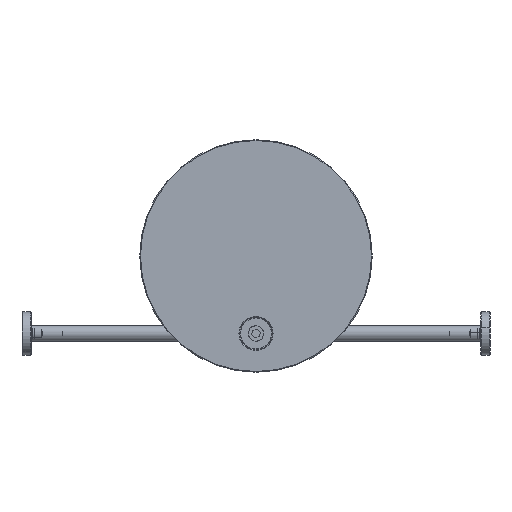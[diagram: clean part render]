
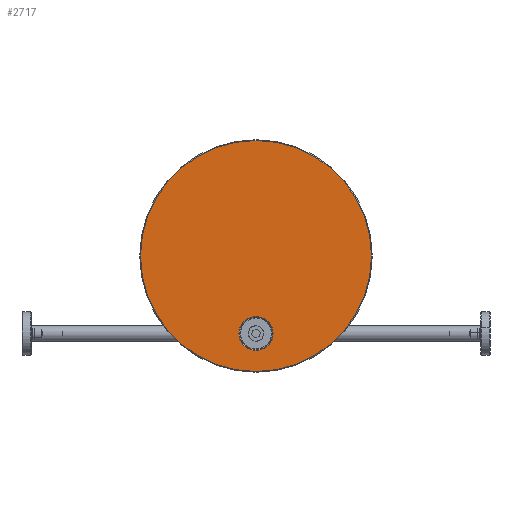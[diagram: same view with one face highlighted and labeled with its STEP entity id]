
A CAD part, front view. The second image highlights one B-rep face of the part: STEP entity #2717.
In plain terms, the highlighted planar face has unit normal (0, -1, 0).
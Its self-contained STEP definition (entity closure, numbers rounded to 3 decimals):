
#849 = ORIENTED_EDGE ( 'NONE', *, *, #5620, .T. ) ;
#1257 = EDGE_LOOP ( 'NONE', ( #849, #1857 ) ) ;
#1277 = PLANE ( 'NONE',  #3992 ) ;
#1334 = FACE_OUTER_BOUND ( 'NONE', #1257, .T. ) ;
#1531 = ORIENTED_EDGE ( 'NONE', *, *, #4691, .T. ) ;
#1569 = CARTESIAN_POINT ( 'NONE',  ( 0., 0., -50. ) ) ;
#1739 = DIRECTION ( 'NONE',  ( 0., 0., 1. ) ) ;
#1799 = CIRCLE ( 'NONE', #1974, 74.5 ) ;
#1857 = ORIENTED_EDGE ( 'NONE', *, *, #6921, .T. ) ;
#1974 = AXIS2_PLACEMENT_3D ( 'NONE', #7693, #10126, #2848 ) ;
#2063 = DIRECTION ( 'NONE',  ( 0., 1., 0. ) ) ;
#2551 = DIRECTION ( 'NONE',  ( 0., -1., 0. ) ) ;
#2609 = VERTEX_POINT ( 'NONE', #7690 ) ;
#2717 = ADVANCED_FACE ( 'NONE', ( #8688, #1334 ), #1277, .F. ) ;
#2848 = DIRECTION ( 'NONE',  ( 0., 0., 1. ) ) ;
#2894 = AXIS2_PLACEMENT_3D ( 'NONE', #5705, #2551, #1739 ) ;
#2946 = CARTESIAN_POINT ( 'NONE',  ( 0., 0., 0. ) ) ;
#3555 = EDGE_LOOP ( 'NONE', ( #1531, #4984 ) ) ;
#3747 = AXIS2_PLACEMENT_3D ( 'NONE', #1569, #5798, #5747 ) ;
#3992 = AXIS2_PLACEMENT_3D ( 'NONE', #2946, #10124, #6117 ) ;
#4691 = EDGE_CURVE ( 'NONE', #9921, #9268, #7872, .T. ) ;
#4926 = CIRCLE ( 'NONE', #2894, 74.5 ) ;
#4984 = ORIENTED_EDGE ( 'NONE', *, *, #6014, .T. ) ;
#5536 = CARTESIAN_POINT ( 'NONE',  ( 0., 0., -61. ) ) ;
#5620 = EDGE_CURVE ( 'NONE', #8467, #2609, #4926, .T. ) ;
#5705 = CARTESIAN_POINT ( 'NONE',  ( 0., 0., 0. ) ) ;
#5747 = DIRECTION ( 'NONE',  ( 0., 0., 1. ) ) ;
#5798 = DIRECTION ( 'NONE',  ( 0., 1., 0. ) ) ;
#6014 = EDGE_CURVE ( 'NONE', #9268, #9921, #9679, .T. ) ;
#6117 = DIRECTION ( 'NONE',  ( 0., 0., 1. ) ) ;
#6921 = EDGE_CURVE ( 'NONE', #2609, #8467, #1799, .T. ) ;
#7690 = CARTESIAN_POINT ( 'NONE',  ( 0., 0., -74.5 ) ) ;
#7693 = CARTESIAN_POINT ( 'NONE',  ( 0., 0., 0. ) ) ;
#7738 = CARTESIAN_POINT ( 'NONE',  ( 0., 0., -39. ) ) ;
#7872 = CIRCLE ( 'NONE', #9725, 11. ) ;
#8467 = VERTEX_POINT ( 'NONE', #10402 ) ;
#8688 = FACE_BOUND ( 'NONE', #3555, .T. ) ;
#9198 = DIRECTION ( 'NONE',  ( 0., 0., 1. ) ) ;
#9268 = VERTEX_POINT ( 'NONE', #7738 ) ;
#9353 = CARTESIAN_POINT ( 'NONE',  ( 0., 0., -50. ) ) ;
#9679 = CIRCLE ( 'NONE', #3747, 11. ) ;
#9725 = AXIS2_PLACEMENT_3D ( 'NONE', #9353, #2063, #9198 ) ;
#9921 = VERTEX_POINT ( 'NONE', #5536 ) ;
#10124 = DIRECTION ( 'NONE',  ( 0., 1., 0. ) ) ;
#10126 = DIRECTION ( 'NONE',  ( 0., -1., 0. ) ) ;
#10402 = CARTESIAN_POINT ( 'NONE',  ( 0., 0., 74.5 ) ) ;
